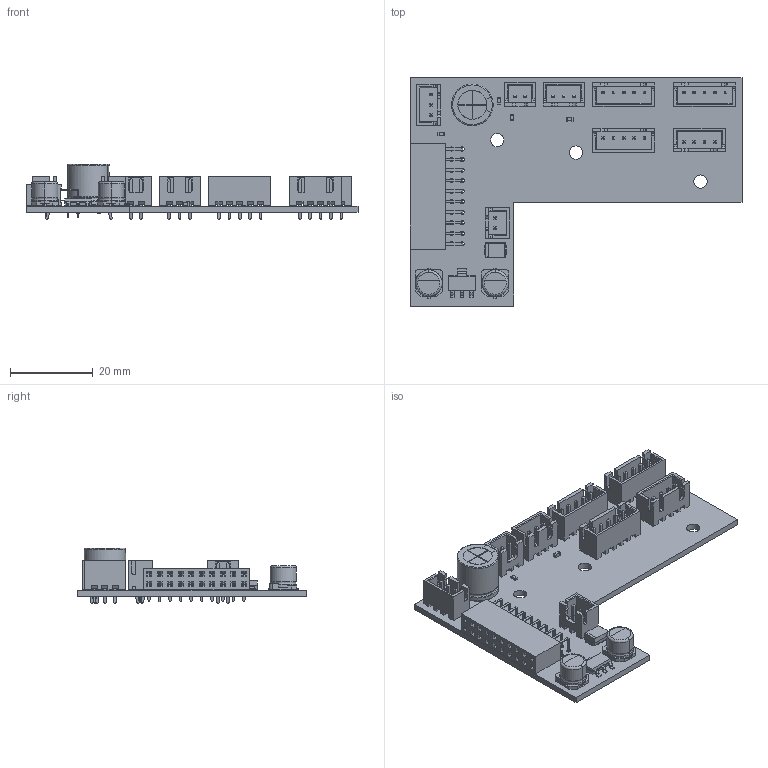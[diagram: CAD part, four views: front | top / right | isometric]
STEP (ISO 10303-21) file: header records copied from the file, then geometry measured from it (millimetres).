
FILE_DESCRIPTION(('KiCad electronic assembly'),'2;1');
FILE_NAME('Stecker2.step','2025-10-26T21:30:49',('Pcbnew'),('Kicad'), 'Open CASCADE STEP processor 7.8','KiCad to STEP converter','Unknown' );
FILE_SCHEMA(('AUTOMOTIVE_DESIGN { 1 0 10303 214 1 1 1 1 }'));
Length unit declared in the file: millimetre
Products named in the file (13): Stecker2 1; EEHZA1E470P; JST_XH_B4B-XH-A_1x04_P2.50mm_Vertical; JST_XH_B5B-XH-A_1x05_P2.50mm_Vertical; C_0603_1608Metric; R_0603_1608Metric; JST_XH_B2B-XH-A_1x02_P2.50mm_Vertical; PinSocket_2x10_P2.54mm_Horizontal; JST_XH_B3B-XH-A_1x03_P2.50mm_Vertical; SOT-223; CP_Radial_D10.0mm_P5.00mm; D_SMB; Stecker_PCB
Assembly tree (19 placements, depth 2):
  Stecker2 1
    EEHZA1E470P  x2
    JST_XH_B4B-XH-A_1x04_P2.50mm_Vertical
    JST_XH_B5B-XH-A_1x05_P2.50mm_Vertical  x3
    C_0603_1608Metric  x3
    R_0603_1608Metric
    JST_XH_B2B-XH-A_1x02_P2.50mm_Vertical  x2
    PinSocket_2x10_P2.54mm_Horizontal
    JST_XH_B3B-XH-A_1x03_P2.50mm_Vertical  x2
    SOT-223
    CP_Radial_D10.0mm_P5.00mm
    D_SMB
    Stecker_PCB
Bounding box: 80.03 x 55 x 13.4 mm (x, y, z)
Volume: 8585.3 mm3; surface area: 14124.5 mm2
Topology: 25 solids, 26 shells, 2155 faces, 5661 edges, 3658 vertices
Faces by surface type: plane 1852, cylinder 250, bspline 47, revolution 4, torus 2
Full cylindrical faces by diameter (mm): 0.7 x2, 0.95 x25, 1 x26, 3.2 x3
Entity records: 58783 total; most frequent: CARTESIAN_POINT 8896, ORIENTED_EDGE 7820, DIRECTION 7186, EDGE_CURVE 3910, LINE 3438, VECTOR 3438, VERTEX_POINT 2532, AXIS2_PLACEMENT_3D 1872
